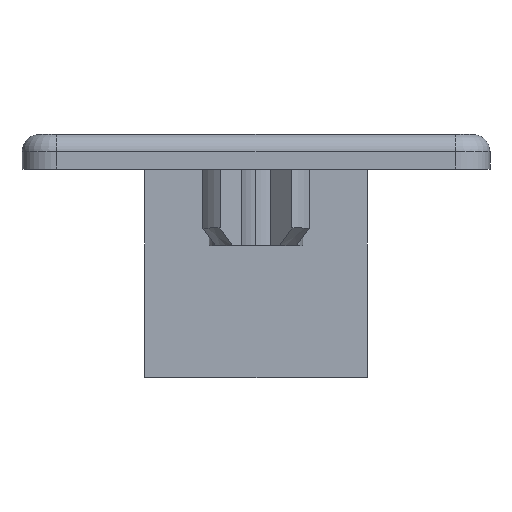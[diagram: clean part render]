
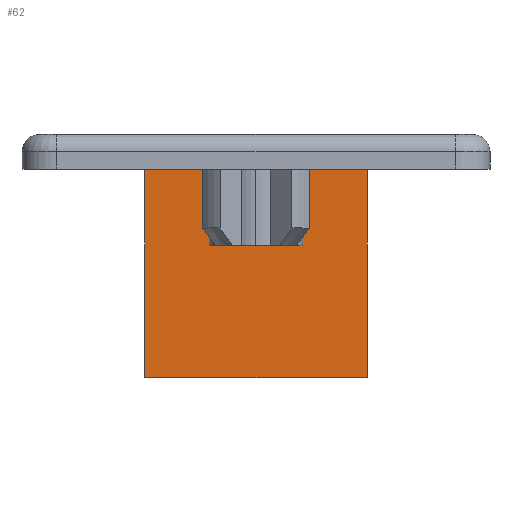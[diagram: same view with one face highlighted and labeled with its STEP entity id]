
A CAD part, top view. The second image highlights one B-rep face of the part: STEP entity #62.
In plain terms, the highlighted planar face has unit normal (0, 0, 1).
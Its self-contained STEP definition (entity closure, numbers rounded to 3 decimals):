
#62 = ADVANCED_FACE ( 'NONE', ( #1549 ), #1036, .F. ) ;
#84 = LINE ( 'NONE', #483, #218 ) ;
#129 = LINE ( 'NONE', #448, #153 ) ;
#153 = VECTOR ( 'NONE', #447, 1000. ) ;
#177 = LINE ( 'NONE', #500, #194 ) ;
#194 = VECTOR ( 'NONE', #499, 1000. ) ;
#218 = VECTOR ( 'NONE', #482, 1000. ) ;
#264 = CARTESIAN_POINT ( 'NONE',  ( -3.216, -7., -10.9 ) ) ;
#272 = CARTESIAN_POINT ( 'NONE',  ( 3.216, -1., -10.9 ) ) ;
#278 = CARTESIAN_POINT ( 'NONE',  ( 3.216, -7., -10.9 ) ) ;
#282 = CARTESIAN_POINT ( 'NONE',  ( -3.216, -1., -10.9 ) ) ;
#447 = DIRECTION ( 'NONE',  ( 0., 1., 0. ) ) ;
#448 = CARTESIAN_POINT ( 'NONE',  ( -3.216, -7., -10.9 ) ) ;
#482 = DIRECTION ( 'NONE',  ( -1., 0., 0. ) ) ;
#483 = CARTESIAN_POINT ( 'NONE',  ( -3.216, -1., -10.9 ) ) ;
#499 = DIRECTION ( 'NONE',  ( 0., 1., 0. ) ) ;
#500 = CARTESIAN_POINT ( 'NONE',  ( 3.216, -7., -10.9 ) ) ;
#672 = EDGE_CURVE ( 'NONE', #1401, #1427, #1486, .T. ) ;
#752 = EDGE_CURVE ( 'NONE', #1401, #1411, #177, .T. ) ;
#763 = EDGE_CURVE ( 'NONE', #1411, #1397, #84, .T. ) ;
#802 = EDGE_CURVE ( 'NONE', #1427, #1397, #129, .T. ) ;
#875 = AXIS2_PLACEMENT_3D ( 'NONE', #1021, #1011, #999 ) ;
#999 = DIRECTION ( 'NONE',  ( -1., 0., 0. ) ) ;
#1011 = DIRECTION ( 'NONE',  ( 0., 0., -1. ) ) ;
#1021 = CARTESIAN_POINT ( 'NONE',  ( -3.216, -7., -10.9 ) ) ;
#1036 = PLANE ( 'NONE',  #875 ) ;
#1185 = CARTESIAN_POINT ( 'NONE',  ( -3.216, -7., -10.9 ) ) ;
#1257 = DIRECTION ( 'NONE',  ( -1., 0., 0. ) ) ;
#1397 = VERTEX_POINT ( 'NONE', #282 ) ;
#1401 = VERTEX_POINT ( 'NONE', #278 ) ;
#1411 = VERTEX_POINT ( 'NONE', #272 ) ;
#1427 = VERTEX_POINT ( 'NONE', #264 ) ;
#1484 = VECTOR ( 'NONE', #1257, 1000. ) ;
#1486 = LINE ( 'NONE', #1185, #1484 ) ;
#1549 = FACE_OUTER_BOUND ( 'NONE', #1685, .T. ) ;
#1685 = EDGE_LOOP ( 'NONE', ( #1969, #1971, #1803, #1808 ) ) ;
#1803 = ORIENTED_EDGE ( 'NONE', *, *, #672, .F. ) ;
#1808 = ORIENTED_EDGE ( 'NONE', *, *, #752, .T. ) ;
#1969 = ORIENTED_EDGE ( 'NONE', *, *, #763, .T. ) ;
#1971 = ORIENTED_EDGE ( 'NONE', *, *, #802, .F. ) ;
